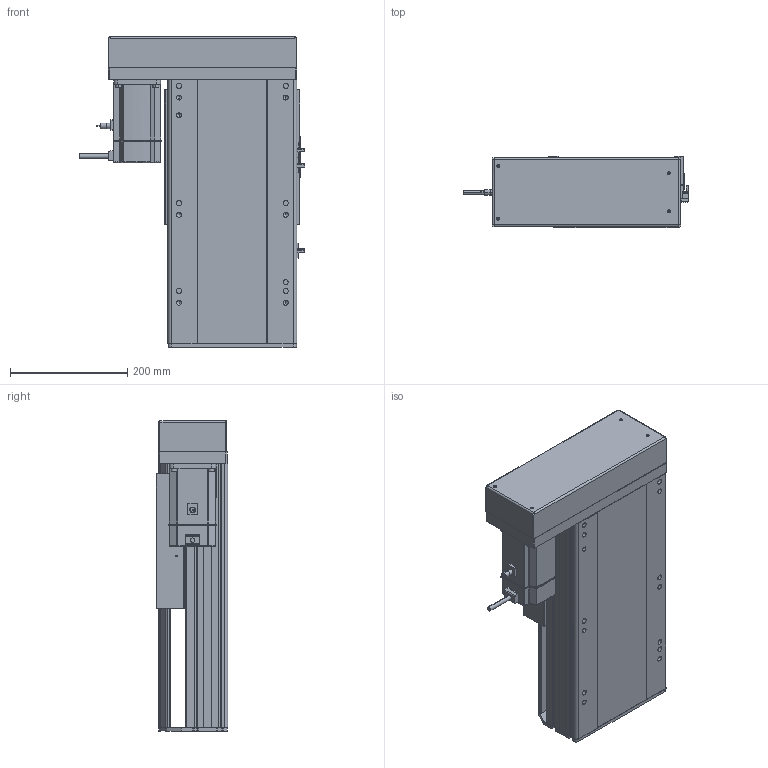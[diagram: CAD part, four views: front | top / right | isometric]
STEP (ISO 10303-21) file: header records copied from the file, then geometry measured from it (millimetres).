
FILE_DESCRIPTION (( 'STEP AP214' ), '1' );
FILE_NAME ('RTH22-XX-150-R-M75-C4.STEP', '2025-10-25T03:07:30', ( 'Microsoft' ), ( 'Microsoft' ), 'SwSTEP 2.0', 'SolidWorks 2018', '' );
FILE_SCHEMA (( 'AUTOMOTIVE_DESIGN' ));
Length unit declared in the file: millimetre
Products named in the file (10): N_RTH22-L-011菁釱^RTH22-XX-XX-R-M75-C4; N_RTH22-R-008-P75萇儂啣^RTH22-XX-XX-R-M75-C4; RTH22-XX-150-R-M75-C4; N_750W萇儂^RTH22-XX-XX-R-M75-C4; N_RTH22-L-018裔赽^RTH22-XX-XX-R-M75-C4; N_OMRON EE-SX672 传感器^RTH22-XX-XX-R-M75-C4; N_RTH22-L-007奻裔^RTH22-XX-XX-R-M75-C4; N_RTH22-GY-001耜裔^RTH22-XX-XX-R-M75-C4; N_RTH22-GY-013外置感应片^RTH22-XX-XX-R-M75-C4; N_RTH22-L-004-SFS25賑釱^RTH22-XX-XX-R-M75-C4
Assembly tree (11 placements, depth 2):
  RTH22-XX-150-R-M75-C4
    N_RTH22-L-011菁釱^RTH22-XX-XX-R-M75-C4
    N_RTH22-GY-001耜裔^RTH22-XX-XX-R-M75-C4
    N_750W萇儂^RTH22-XX-XX-R-M75-C4
    N_RTH22-R-008-P75萇儂啣^RTH22-XX-XX-R-M75-C4
    N_RTH22-L-007奻裔^RTH22-XX-XX-R-M75-C4
    N_OMRON EE-SX672 传感器^RTH22-XX-XX-R-M75-C4  x3
    N_RTH22-GY-013外置感应片^RTH22-XX-XX-R-M75-C4
    N_RTH22-L-004-SFS25賑釱^RTH22-XX-XX-R-M75-C4
    N_RTH22-L-018裔赽^RTH22-XX-XX-R-M75-C4
Bounding box: 384.7 x 122 x 529.7 mm (x, y, z)
Volume: 8997820.6 mm3; surface area: 1131411 mm2
Topology: 11 solids, 11 shells, 1520 faces, 4147 edges, 2683 vertices
Faces by surface type: plane 785, cylinder 414, bspline 279, cone 42
Entity records: 37335 total; most frequent: CARTESIAN_POINT 11610, ORIENTED_EDGE 5302, DIRECTION 4917, EDGE_CURVE 2651, VERTEX_POINT 1719, VECTOR 1681, LINE 1681, AXIS2_PLACEMENT_3D 1618
